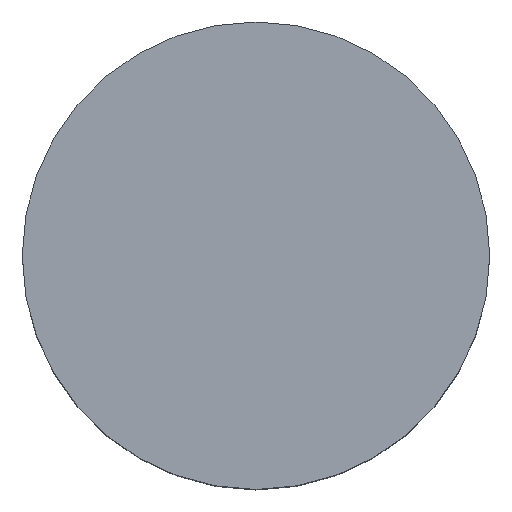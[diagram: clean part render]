
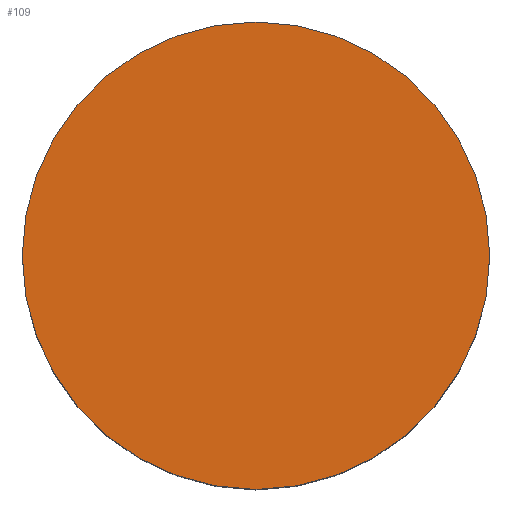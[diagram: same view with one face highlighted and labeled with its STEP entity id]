
A CAD part, top view. The second image highlights one B-rep face of the part: STEP entity #109.
In plain terms, the highlighted planar face has unit normal (0, 0, 1).
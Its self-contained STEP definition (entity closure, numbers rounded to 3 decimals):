
#24 = VERTEX_POINT('',#25);
#25 = CARTESIAN_POINT('',(31.75,-64.5,55.5));
#32 = CYLINDRICAL_SURFACE('',#33,2.25);
#33 = AXIS2_PLACEMENT_3D('',#34,#35,#36);
#34 = CARTESIAN_POINT('',(29.5,-64.5,52.5));
#35 = DIRECTION('',(-0.,-0.,-1.));
#36 = DIRECTION('',(1.,0.,0.));
#51 = EDGE_CURVE('',#24,#24,#52,.T.);
#52 = SURFACE_CURVE('',#53,(#58,#65),.PCURVE_S1.);
#53 = CIRCLE('',#54,2.25);
#54 = AXIS2_PLACEMENT_3D('',#55,#56,#57);
#55 = CARTESIAN_POINT('',(29.5,-64.5,55.5));
#56 = DIRECTION('',(0.,0.,1.));
#57 = DIRECTION('',(1.,0.,0.));
#58 = PCURVE('',#32,#59);
#59 = DEFINITIONAL_REPRESENTATION('',(#60),#64);
#60 = LINE('',#61,#62);
#61 = CARTESIAN_POINT('',(-0.,-3.));
#62 = VECTOR('',#63,1.);
#63 = DIRECTION('',(-1.,0.));
#64 = ( GEOMETRIC_REPRESENTATION_CONTEXT(2) 
PARAMETRIC_REPRESENTATION_CONTEXT() REPRESENTATION_CONTEXT('2D SPACE',''
  ) );
#65 = PCURVE('',#66,#71);
#66 = PLANE('',#67);
#67 = AXIS2_PLACEMENT_3D('',#68,#69,#70);
#68 = CARTESIAN_POINT('',(29.5,-64.5,55.5));
#69 = DIRECTION('',(0.,0.,1.));
#70 = DIRECTION('',(1.,0.,-0.));
#71 = DEFINITIONAL_REPRESENTATION('',(#72),#76);
#72 = CIRCLE('',#73,2.25);
#73 = AXIS2_PLACEMENT_2D('',#74,#75);
#74 = CARTESIAN_POINT('',(0.,0.));
#75 = DIRECTION('',(1.,0.));
#76 = ( GEOMETRIC_REPRESENTATION_CONTEXT(2) 
PARAMETRIC_REPRESENTATION_CONTEXT() REPRESENTATION_CONTEXT('2D SPACE',''
  ) );
#109 = ADVANCED_FACE('',(#110),#66,.T.);
#110 = FACE_BOUND('',#111,.T.);
#111 = EDGE_LOOP('',(#112));
#112 = ORIENTED_EDGE('',*,*,#51,.T.);
